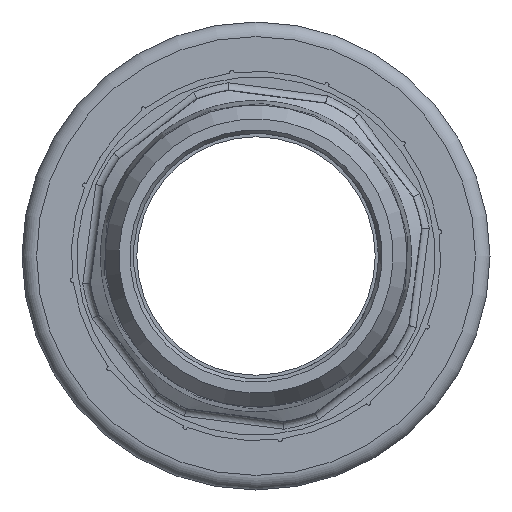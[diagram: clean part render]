
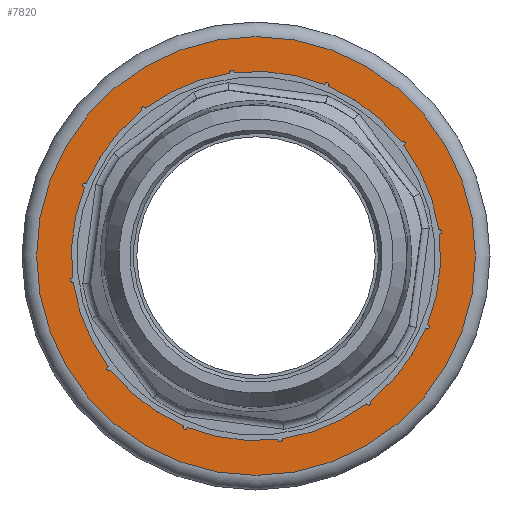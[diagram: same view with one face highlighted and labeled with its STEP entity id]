
A CAD part, left-side view. The second image highlights one B-rep face of the part: STEP entity #7820.
In plain terms, the highlighted planar face has unit normal (-1, 0, 0).
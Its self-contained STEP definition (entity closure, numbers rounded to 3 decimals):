
#171=PLANE('',#10282);
#1103=CIRCLE('',#9850,25.254);
#1106=CIRCLE('',#9856,0.3);
#1108=CIRCLE('',#9862,25.254);
#1110=CIRCLE('',#9867,0.3);
#1111=CIRCLE('',#9870,25.254);
#1114=CIRCLE('',#9876,0.3);
#1116=CIRCLE('',#9882,25.254);
#1118=CIRCLE('',#9887,0.3);
#1119=CIRCLE('',#9890,25.254);
#1122=CIRCLE('',#9896,0.3);
#1124=CIRCLE('',#9902,25.254);
#1136=CIRCLE('',#9917,0.3);
#1137=CIRCLE('',#9920,25.254);
#1142=CIRCLE('',#9928,0.3);
#1144=CIRCLE('',#9934,25.254);
#1146=CIRCLE('',#9939,0.3);
#1147=CIRCLE('',#9942,25.254);
#1150=CIRCLE('',#9948,0.3);
#1152=CIRCLE('',#9954,25.254);
#1154=CIRCLE('',#9959,0.3);
#1155=CIRCLE('',#9962,25.254);
#1158=CIRCLE('',#9968,0.3);
#1160=CIRCLE('',#9974,25.254);
#1162=CIRCLE('',#9979,0.3);
#1265=CIRCLE('',#10283,30.);
#2604=ORIENTED_EDGE('',*,*,#3912,.F.);
#2605=ORIENTED_EDGE('',*,*,#4114,.F.);
#2606=ORIENTED_EDGE('',*,*,#4103,.F.);
#2607=ORIENTED_EDGE('',*,*,#4098,.F.);
#2608=ORIENTED_EDGE('',*,*,#4087,.F.);
#2609=ORIENTED_EDGE('',*,*,#4084,.F.);
#2610=ORIENTED_EDGE('',*,*,#4073,.F.);
#2611=ORIENTED_EDGE('',*,*,#4068,.F.);
#2612=ORIENTED_EDGE('',*,*,#4057,.F.);
#2613=ORIENTED_EDGE('',*,*,#4054,.F.);
#2614=ORIENTED_EDGE('',*,*,#4043,.F.);
#2615=ORIENTED_EDGE('',*,*,#4038,.F.);
#2616=ORIENTED_EDGE('',*,*,#4023,.F.);
#2617=ORIENTED_EDGE('',*,*,#4020,.F.);
#2618=ORIENTED_EDGE('',*,*,#3992,.F.);
#2619=ORIENTED_EDGE('',*,*,#3987,.F.);
#2620=ORIENTED_EDGE('',*,*,#3975,.F.);
#2621=ORIENTED_EDGE('',*,*,#3972,.F.);
#2622=ORIENTED_EDGE('',*,*,#3960,.F.);
#2623=ORIENTED_EDGE('',*,*,#3955,.F.);
#2624=ORIENTED_EDGE('',*,*,#3943,.F.);
#2625=ORIENTED_EDGE('',*,*,#3940,.F.);
#2626=ORIENTED_EDGE('',*,*,#3928,.F.);
#2627=ORIENTED_EDGE('',*,*,#3923,.F.);
#2628=ORIENTED_EDGE('',*,*,#4510,.T.);
#3912=EDGE_CURVE('',#5146,#5148,#1103,.T.);
#3923=EDGE_CURVE('',#5148,#5158,#1106,.T.);
#3928=EDGE_CURVE('',#5158,#5162,#1108,.T.);
#3940=EDGE_CURVE('',#5162,#5173,#1110,.T.);
#3943=EDGE_CURVE('',#5173,#5175,#1111,.T.);
#3955=EDGE_CURVE('',#5175,#5186,#1114,.T.);
#3960=EDGE_CURVE('',#5186,#5190,#1116,.T.);
#3972=EDGE_CURVE('',#5190,#5201,#1118,.T.);
#3975=EDGE_CURVE('',#5201,#5203,#1119,.T.);
#3987=EDGE_CURVE('',#5203,#5214,#1122,.T.);
#3992=EDGE_CURVE('',#5214,#5218,#1124,.T.);
#4020=EDGE_CURVE('',#5218,#5245,#1136,.T.);
#4023=EDGE_CURVE('',#5245,#5247,#1137,.T.);
#4038=EDGE_CURVE('',#5247,#5261,#1142,.T.);
#4043=EDGE_CURVE('',#5261,#5265,#1144,.T.);
#4054=EDGE_CURVE('',#5265,#5275,#1146,.T.);
#4057=EDGE_CURVE('',#5275,#5277,#1147,.T.);
#4068=EDGE_CURVE('',#5277,#5287,#1150,.T.);
#4073=EDGE_CURVE('',#5287,#5291,#1152,.T.);
#4084=EDGE_CURVE('',#5291,#5301,#1154,.T.);
#4087=EDGE_CURVE('',#5301,#5303,#1155,.T.);
#4098=EDGE_CURVE('',#5303,#5313,#1158,.T.);
#4103=EDGE_CURVE('',#5313,#5317,#1160,.T.);
#4114=EDGE_CURVE('',#5317,#5146,#1162,.T.);
#4510=EDGE_CURVE('',#5529,#5529,#1265,.T.);
#5146=VERTEX_POINT('',#12850);
#5148=VERTEX_POINT('',#12853);
#5158=VERTEX_POINT('',#12891);
#5162=VERTEX_POINT('',#12901);
#5173=VERTEX_POINT('',#12947);
#5175=VERTEX_POINT('',#12956);
#5186=VERTEX_POINT('',#12999);
#5190=VERTEX_POINT('',#13009);
#5201=VERTEX_POINT('',#13055);
#5203=VERTEX_POINT('',#13064);
#5214=VERTEX_POINT('',#13107);
#5218=VERTEX_POINT('',#13117);
#5245=VERTEX_POINT('',#13223);
#5247=VERTEX_POINT('',#13232);
#5261=VERTEX_POINT('',#13286);
#5265=VERTEX_POINT('',#13296);
#5275=VERTEX_POINT('',#13337);
#5277=VERTEX_POINT('',#13346);
#5287=VERTEX_POINT('',#13384);
#5291=VERTEX_POINT('',#13394);
#5301=VERTEX_POINT('',#13435);
#5303=VERTEX_POINT('',#13444);
#5313=VERTEX_POINT('',#13482);
#5317=VERTEX_POINT('',#13492);
#5529=VERTEX_POINT('',#16113);
#6677=EDGE_LOOP('',(#2604,#2605,#2606,#2607,#2608,#2609,#2610,#2611,#2612,
#2613,#2614,#2615,#2616,#2617,#2618,#2619,#2620,#2621,#2622,#2623,#2624,
#2625,#2626,#2627));
#6678=EDGE_LOOP('',(#2628));
#7225=FACE_BOUND('',#6677,.T.);
#7226=FACE_BOUND('',#6678,.T.);
#7820=ADVANCED_FACE('',(#7225,#7226),#171,.T.);
#9850=AXIS2_PLACEMENT_3D('',#12852,#10772,#10773);
#9856=AXIS2_PLACEMENT_3D('',#12890,#10786,#10787);
#9862=AXIS2_PLACEMENT_3D('',#12900,#10798,#10799);
#9867=AXIS2_PLACEMENT_3D('',#12946,#10810,#10811);
#9870=AXIS2_PLACEMENT_3D('',#12955,#10816,#10817);
#9876=AXIS2_PLACEMENT_3D('',#12998,#10830,#10831);
#9882=AXIS2_PLACEMENT_3D('',#13008,#10842,#10843);
#9887=AXIS2_PLACEMENT_3D('',#13054,#10854,#10855);
#9890=AXIS2_PLACEMENT_3D('',#13063,#10860,#10861);
#9896=AXIS2_PLACEMENT_3D('',#13106,#10874,#10875);
#9902=AXIS2_PLACEMENT_3D('',#13116,#10886,#10887);
#9917=AXIS2_PLACEMENT_3D('',#13222,#10918,#10919);
#9920=AXIS2_PLACEMENT_3D('',#13231,#10924,#10925);
#9928=AXIS2_PLACEMENT_3D('',#13285,#10942,#10943);
#9934=AXIS2_PLACEMENT_3D('',#13295,#10954,#10955);
#9939=AXIS2_PLACEMENT_3D('',#13336,#10966,#10967);
#9942=AXIS2_PLACEMENT_3D('',#13345,#10972,#10973);
#9948=AXIS2_PLACEMENT_3D('',#13383,#10986,#10987);
#9954=AXIS2_PLACEMENT_3D('',#13393,#10998,#10999);
#9959=AXIS2_PLACEMENT_3D('',#13434,#11010,#11011);
#9962=AXIS2_PLACEMENT_3D('',#13443,#11016,#11017);
#9968=AXIS2_PLACEMENT_3D('',#13481,#11030,#11031);
#9974=AXIS2_PLACEMENT_3D('',#13491,#11042,#11043);
#9979=AXIS2_PLACEMENT_3D('',#13532,#11054,#11055);
#10282=AXIS2_PLACEMENT_3D('',#16111,#11742,#11743);
#10283=AXIS2_PLACEMENT_3D('',#16112,#11744,#11745);
#10772=DIRECTION('',(-1.,0.,0.));
#10773=DIRECTION('',(0.,0.,1.));
#10786=DIRECTION('',(-1.,0.,0.));
#10787=DIRECTION('',(0.,0.,1.));
#10798=DIRECTION('',(-1.,0.,0.));
#10799=DIRECTION('',(0.,0.,1.));
#10810=DIRECTION('',(-1.,0.,0.));
#10811=DIRECTION('',(0.,0.,1.));
#10816=DIRECTION('',(-1.,0.,0.));
#10817=DIRECTION('',(0.,0.,1.));
#10830=DIRECTION('',(-1.,0.,0.));
#10831=DIRECTION('',(0.,0.,1.));
#10842=DIRECTION('',(-1.,0.,0.));
#10843=DIRECTION('',(0.,0.,1.));
#10854=DIRECTION('',(-1.,0.,0.));
#10855=DIRECTION('',(0.,0.,1.));
#10860=DIRECTION('',(-1.,0.,0.));
#10861=DIRECTION('',(0.,0.,1.));
#10874=DIRECTION('',(-1.,0.,0.));
#10875=DIRECTION('',(0.,0.,1.));
#10886=DIRECTION('',(-1.,0.,0.));
#10887=DIRECTION('',(0.,0.,1.));
#10918=DIRECTION('',(-1.,0.,0.));
#10919=DIRECTION('',(0.,0.,1.));
#10924=DIRECTION('',(-1.,0.,0.));
#10925=DIRECTION('',(0.,0.,1.));
#10942=DIRECTION('',(-1.,0.,0.));
#10943=DIRECTION('',(0.,0.,1.));
#10954=DIRECTION('',(-1.,0.,0.));
#10955=DIRECTION('',(0.,0.,1.));
#10966=DIRECTION('',(-1.,0.,0.));
#10967=DIRECTION('',(0.,0.,1.));
#10972=DIRECTION('',(-1.,0.,0.));
#10973=DIRECTION('',(0.,0.,1.));
#10986=DIRECTION('',(-1.,0.,0.));
#10987=DIRECTION('',(0.,0.,1.));
#10998=DIRECTION('',(-1.,0.,0.));
#10999=DIRECTION('',(0.,0.,1.));
#11010=DIRECTION('',(-1.,0.,0.));
#11011=DIRECTION('',(0.,0.,1.));
#11016=DIRECTION('',(-1.,0.,0.));
#11017=DIRECTION('',(0.,0.,1.));
#11030=DIRECTION('',(-1.,0.,0.));
#11031=DIRECTION('',(0.,0.,1.));
#11042=DIRECTION('',(-1.,0.,0.));
#11043=DIRECTION('',(0.,0.,1.));
#11054=DIRECTION('',(-1.,0.,0.));
#11055=DIRECTION('',(0.,0.,1.));
#11742=DIRECTION('',(-1.,0.,0.));
#11743=DIRECTION('',(0.,0.,1.));
#11744=DIRECTION('',(-1.,0.,0.));
#11745=DIRECTION('',(0.,0.,1.));
#12850=CARTESIAN_POINT('',(0.,-3.586,-24.998));
#12852=CARTESIAN_POINT('',(0.,0.,0.));
#12853=CARTESIAN_POINT('',(0.,-15.14,-20.213));
#12890=CARTESIAN_POINT('',(0.,-15.412,-20.086));
#12891=CARTESIAN_POINT('',(0.,-15.605,-19.856));
#12900=CARTESIAN_POINT('',(0.,0.,0.));
#12901=CARTESIAN_POINT('',(0.,-23.218,-9.934));
#12946=CARTESIAN_POINT('',(0.,-23.391,-9.689));
#12947=CARTESIAN_POINT('',(0.,-23.442,-9.393));
#12955=CARTESIAN_POINT('',(0.,0.,0.));
#12956=CARTESIAN_POINT('',(0.,-25.075,3.006));
#12998=CARTESIAN_POINT('',(0.,-25.101,3.305));
#12999=CARTESIAN_POINT('',(0.,-24.998,3.586));
#13008=CARTESIAN_POINT('',(0.,0.,0.));
#13009=CARTESIAN_POINT('',(0.,-20.213,15.141));
#13054=CARTESIAN_POINT('',(0.,-20.086,15.412));
#13055=CARTESIAN_POINT('',(0.,-19.856,15.605));
#13063=CARTESIAN_POINT('',(0.,0.,0.));
#13064=CARTESIAN_POINT('',(0.,-9.934,23.218));
#13106=CARTESIAN_POINT('',(0.,-9.689,23.391));
#13107=CARTESIAN_POINT('',(0.,-9.393,23.442));
#13116=CARTESIAN_POINT('',(0.,0.,0.));
#13117=CARTESIAN_POINT('',(0.,3.006,25.075));
#13222=CARTESIAN_POINT('',(0.,3.305,25.101));
#13223=CARTESIAN_POINT('',(0.,3.586,24.998));
#13231=CARTESIAN_POINT('',(0.,0.,0.));
#13232=CARTESIAN_POINT('',(0.,15.14,20.213));
#13285=CARTESIAN_POINT('',(0.,15.412,20.086));
#13286=CARTESIAN_POINT('',(0.,15.605,19.856));
#13295=CARTESIAN_POINT('',(0.,0.,0.));
#13296=CARTESIAN_POINT('',(0.,23.218,9.934));
#13336=CARTESIAN_POINT('',(0.,23.391,9.689));
#13337=CARTESIAN_POINT('',(0.,23.442,9.393));
#13345=CARTESIAN_POINT('',(0.,0.,0.));
#13346=CARTESIAN_POINT('',(0.,25.075,-3.006));
#13383=CARTESIAN_POINT('',(0.,25.101,-3.305));
#13384=CARTESIAN_POINT('',(0.,24.998,-3.586));
#13393=CARTESIAN_POINT('',(0.,0.,0.));
#13394=CARTESIAN_POINT('',(0.,20.213,-15.141));
#13434=CARTESIAN_POINT('',(0.,20.086,-15.412));
#13435=CARTESIAN_POINT('',(0.,19.856,-15.605));
#13443=CARTESIAN_POINT('',(0.,0.,0.));
#13444=CARTESIAN_POINT('',(0.,9.934,-23.218));
#13481=CARTESIAN_POINT('',(0.,9.689,-23.391));
#13482=CARTESIAN_POINT('',(0.,9.393,-23.442));
#13491=CARTESIAN_POINT('',(0.,0.,0.));
#13492=CARTESIAN_POINT('',(0.,-3.006,-25.075));
#13532=CARTESIAN_POINT('',(0.,-3.305,-25.101));
#16111=CARTESIAN_POINT('',(0.,0.,21.3));
#16112=CARTESIAN_POINT('',(0.,0.,0.));
#16113=CARTESIAN_POINT('',(0.,0.,30.));
